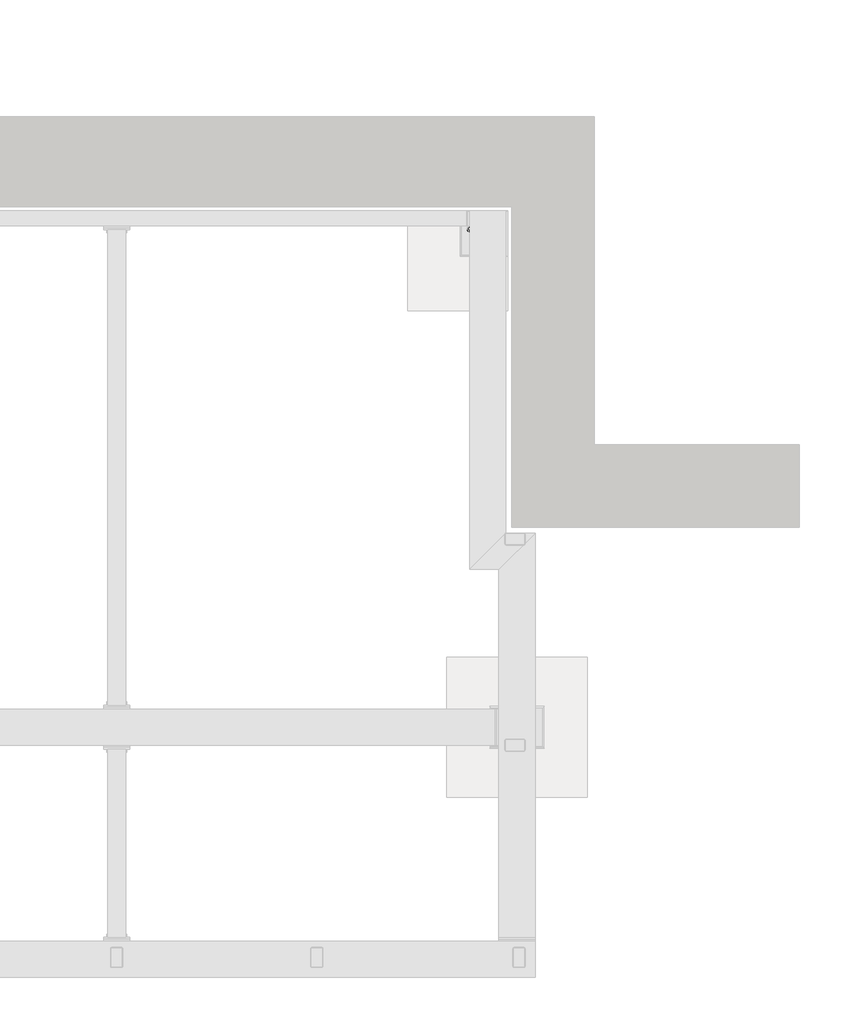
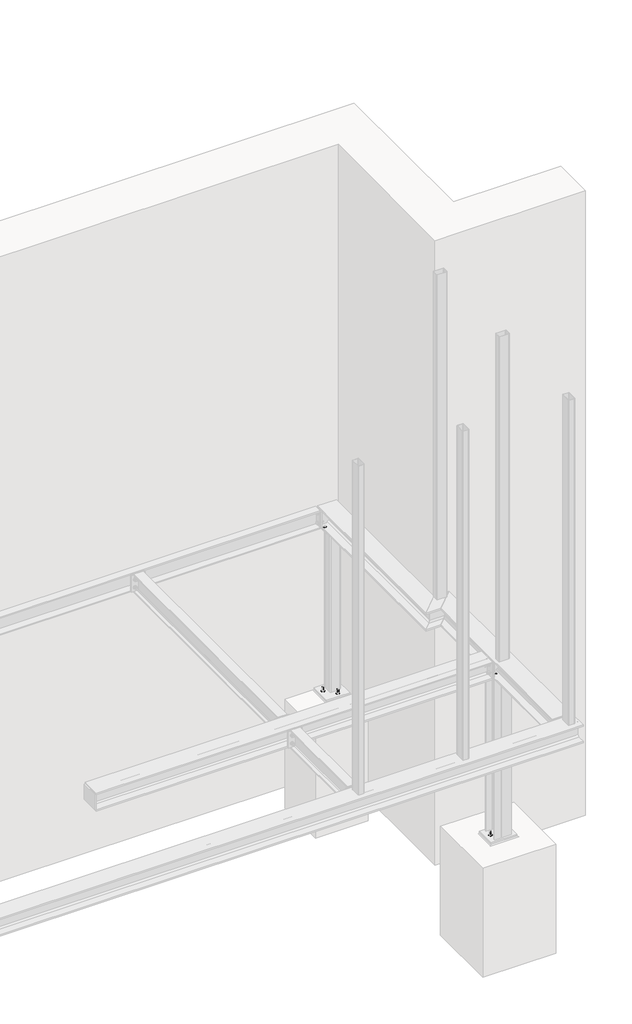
# One storey, part 30 of 31: 6 assemblies.
"""IFC4 building model written with IfcOpenShell, lengths in millimetres."""

from ifc_helpers import new_model, si_unit, point, frame, frame_2d, origin, place, context, project, spatial, polyline, circle_curve, trimmed, segment, composite_curve, outline, extrude, faceted_brep, element, save

model = new_model("IFC4")

# Units and contexts
model_context = context("Model", 3, world=origin())
ifc_project = project(units=[si_unit("LENGTHUNIT", "METRE", prefix="MILLI")], contexts=[model_context])

# Site, building, storey
site = spatial("IfcSite", under=ifc_project)
building = spatial("IfcBuilding", under=site)
storey = spatial("IfcBuildingStorey", under=building, Name="Základy", Elevation=-1200.0)

# Assemblies
placement = place(None, origin())
element("IfcElementAssembly", 1, at=placement, inside=storey, context=model_context, shape_type="SweptSolid", body=[
    extrude(outline(composite_curve([segment(polyline([(16090.0, 1193.6), (16090.0, 1146.4)]), True, "CONTINUOUS"), segment(trimmed(circle_curve(frame_2d((16083.6, 1146.4)), 6.4), [point((16090.0, 1146.4))], [point((16083.6, 1140.0))], False, "CARTESIAN"), True, "CONTINUOUS"), segment(polyline([(16083.6, 1140.0), (15996.4, 1140.0)]), True, "CONTINUOUS"), segment(trimmed(circle_curve(frame_2d((15996.4, 1146.4)), 6.4), [point((15996.4, 1140.0))], [point((15990.0, 1146.4))], False, "CARTESIAN"), True, "CONTINUOUS"), segment(polyline([(15990.0, 1146.4), (15990.0, 1193.6)]), True, "CONTINUOUS"), segment(trimmed(circle_curve(frame_2d((15996.4, 1193.6)), 6.4), [point((15990.0, 1193.6))], [point((15996.4, 1200.0))], False, "CARTESIAN"), True, "CONTINUOUS"), segment(polyline([(15996.4, 1200.0), (16083.6, 1200.0)]), True, "CONTINUOUS"), segment(trimmed(circle_curve(frame_2d((16083.6, 1193.6)), 6.4), [point((16083.6, 1200.0))], [point((16090.0, 1193.6))], False, "CARTESIAN"), True, "CONTINUOUS")], self_intersect=False), holes=[composite_curve([segment(trimmed(circle_curve(frame_2d((16083.6, 1193.6)), 3.2), [point((16086.8, 1193.6))], [point((16083.6, 1196.8))], True, "CARTESIAN"), True, "CONTINUOUS"), segment(polyline([(16083.6, 1196.8), (15996.4, 1196.8)]), True, "CONTINUOUS"), segment(trimmed(circle_curve(frame_2d((15996.4, 1193.6)), 3.2), [point((15996.4, 1196.8))], [point((15993.2, 1193.6))], True, "CARTESIAN"), True, "CONTINUOUS"), segment(polyline([(15993.2, 1193.6), (15993.2, 1146.4)]), True, "CONTINUOUS"), segment(trimmed(circle_curve(frame_2d((15996.4, 1146.4)), 3.2), [point((15993.2, 1146.4))], [point((15996.4, 1143.2))], True, "CARTESIAN"), True, "CONTINUOUS"), segment(polyline([(15996.4, 1143.2), (16083.6, 1143.2)]), True, "CONTINUOUS"), segment(trimmed(circle_curve(frame_2d((16083.6, 1146.4)), 3.2), [point((16083.6, 1143.2))], [point((16086.8, 1146.4))], True, "CARTESIAN"), True, "CONTINUOUS"), segment(polyline([(16086.8, 1146.4), (16086.8, 1193.6)]), True, "CONTINUOUS")], self_intersect=False)]), frame((0.0, 0.0, -160.0), z_axis=(0.0, 0.0, 1.0), x_axis=(1.0, 0.0, 0.0)), (0.0, 0.0, 1.0), 3280.0),
])
element("IfcElementAssembly", 2, at=placement, inside=storey, context=model_context, shape_type="SweptSolid", body=[
    extrude(outline(polyline([(16400.0, 1610.0), (16400.0, 910.0), (15700.0, 910.0), (15700.0, 1610.0), (16400.0, 1610.0)])), frame((0.0, 0.0, -3100.0), z_axis=(0.0, 0.0, 1.0), x_axis=(1.0, 0.0, 0.0)), (0.0, 0.0, 1.0), 1100.0),
])
element("IfcElementAssembly", 3, at=placement, inside=storey, context=model_context, shape_type="SweptSolid", body=[
    extrude(outline(composite_curve([segment(polyline([(16036.4, 160.0), (16083.6, 160.0)]), True, "CONTINUOUS"), segment(trimmed(circle_curve(frame_2d((16083.6, 153.6)), 6.4), [point((16083.6, 160.0))], [point((16090.0, 153.6))], False, "CARTESIAN"), True, "CONTINUOUS"), segment(polyline([(16090.0, 153.6), (16090.0, 66.4)]), True, "CONTINUOUS"), segment(trimmed(circle_curve(frame_2d((16083.6, 66.4)), 6.4), [point((16090.0, 66.4))], [point((16083.6, 60.0))], False, "CARTESIAN"), True, "CONTINUOUS"), segment(polyline([(16083.6, 60.0), (16036.4, 60.0)]), True, "CONTINUOUS"), segment(trimmed(circle_curve(frame_2d((16036.4, 66.4)), 6.4), [point((16036.4, 60.0))], [point((16030.0, 66.4))], False, "CARTESIAN"), True, "CONTINUOUS"), segment(polyline([(16030.0, 66.4), (16030.0, 153.6)]), True, "CONTINUOUS"), segment(trimmed(circle_curve(frame_2d((16036.4, 153.6)), 6.4), [point((16030.0, 153.6))], [point((16036.4, 160.0))], False, "CARTESIAN"), True, "CONTINUOUS")], self_intersect=False), holes=[composite_curve([segment(trimmed(circle_curve(frame_2d((16036.4, 153.6)), 3.2), [point((16036.4, 156.8))], [point((16033.2, 153.6))], True, "CARTESIAN"), True, "CONTINUOUS"), segment(polyline([(16033.2, 153.6), (16033.2, 66.4)]), True, "CONTINUOUS"), segment(trimmed(circle_curve(frame_2d((16036.4, 66.4)), 3.2), [point((16033.2, 66.4))], [point((16036.4, 63.2))], True, "CARTESIAN"), True, "CONTINUOUS"), segment(polyline([(16036.4, 63.2), (16083.6, 63.2)]), True, "CONTINUOUS"), segment(trimmed(circle_curve(frame_2d((16083.6, 66.4)), 3.2), [point((16083.6, 63.2))], [point((16086.8, 66.4))], True, "CARTESIAN"), True, "CONTINUOUS"), segment(polyline([(16086.8, 66.4), (16086.8, 153.6)]), True, "CONTINUOUS"), segment(trimmed(circle_curve(frame_2d((16083.6, 153.6)), 3.2), [point((16086.8, 153.6))], [point((16083.6, 156.8))], True, "CARTESIAN"), True, "CONTINUOUS"), segment(polyline([(16083.6, 156.8), (16036.4, 156.8)]), True, "CONTINUOUS")], self_intersect=False)]), frame((0.0, 0.0, -160.0), z_axis=(0.0, 0.0, 1.0), x_axis=(1.0, 0.0, 0.0)), (0.0, 0.0, 1.0), 3280.0),
])
element("IfcElementAssembly", 4, at=placement, inside=storey, context=model_context, shape_type="SweptSolid", body=[
    extrude(outline(composite_curve([segment(polyline([(16130.0, 1184.0), (15970.0, 1184.0), (15970.0, 1193.0), (16032.0, 1193.0)]), True, "CONTINUOUS"), segment(trimmed(circle_curve(frame_2d((16032.0, 1208.0)), 15.0), [point((16032.0, 1193.0))], [point((16047.0, 1208.0))], True, "CARTESIAN"), True, "CONTINUOUS"), segment(polyline([(16047.0, 1208.0), (16047.0, 1312.0)]), True, "CONTINUOUS"), segment(trimmed(circle_curve(frame_2d((16032.0, 1312.0)), 15.0), [point((16047.0, 1312.0))], [point((16032.0, 1327.0))], True, "CARTESIAN"), True, "CONTINUOUS"), segment(polyline([(16032.0, 1327.0), (15970.0, 1327.0), (15970.0, 1336.0), (16130.0, 1336.0), (16130.0, 1327.0), (16068.0, 1327.0)]), True, "CONTINUOUS"), segment(trimmed(circle_curve(frame_2d((16068.0, 1312.0)), 15.0), [point((16068.0, 1327.0))], [point((16053.0, 1312.0))], True, "CARTESIAN"), True, "CONTINUOUS"), segment(polyline([(16053.0, 1312.0), (16053.0, 1208.0)]), True, "CONTINUOUS"), segment(trimmed(circle_curve(frame_2d((16068.0, 1208.0)), 15.0), [point((16053.0, 1208.0))], [point((16068.0, 1193.0))], True, "CARTESIAN"), True, "CONTINUOUS"), segment(polyline([(16068.0, 1193.0), (16130.0, 1193.0), (16130.0, 1184.0)]), True, "CONTINUOUS")], self_intersect=False)), frame((0.0, 0.0, -1975.0), z_axis=(0.0, 0.0, 1.0), x_axis=(1.0, 0.0, 0.0)), (0.0, 0.0, 1.0), 1625.0),
    extrude(outline(polyline([(16175.0, 1356.0), (16175.0, 1164.0), (15925.0, 1164.0), (15925.0, 1356.0), (16175.0, 1356.0)])), frame((0.0, 0.0, -1990.0), z_axis=(0.0, 0.0, 1.0), x_axis=(1.0, 0.0, 0.0)), (0.0, 0.0, 1.0), 15.0),
    extrude(outline(polyline([(16140.0, 1346.0), (16140.0, 1174.0), (15960.0, 1174.0), (15960.0, 1346.0), (16140.0, 1346.0)])), frame((0.0, 0.0, -350.0), z_axis=(0.0, 0.0, 1.0), x_axis=(1.0, 0.0, 0.0)), (0.0, 0.0, 1.0), 10.0),
    extrude(outline(polyline([(15982.7364934, 1260.0), (15978.8682467, 1253.3000002), (15971.1317533, 1253.3000002), (15967.2635066, 1260.0), (15971.1317533, 1266.6999998), (15978.8682467, 1266.6999998), (15982.7364934, 1260.0)])), frame((0.0, 0.0, -2122.0), z_axis=(0.0, 0.0, 1.0), x_axis=(1.0, 0.0, 0.0)), (0.0, 0.0, 1.0), 132.0),
    extrude(outline(composite_curve([segment(trimmed(circle_curve(frame_2d((15975.0, 1260.0)), 8.0), [point((15983.0, 1260.0))], [point((15967.0, 1260.0))], False, "CARTESIAN"), True, "CONTINUOUS"), segment(trimmed(circle_curve(frame_2d((15975.0, 1260.0)), 8.0), [point((15967.0, 1260.0))], [point((15983.0, 1260.0))], False, "CARTESIAN"), True, "CONTINUOUS")], self_intersect=False)), frame((0.0, 0.0, -1990.0), z_axis=(0.0, 0.0, 1.0), x_axis=(1.0, 0.0, 0.0)), (0.0, 0.0, 1.0), 58.0),
    extrude(outline(composite_curve([segment(trimmed(circle_curve(frame_2d((15975.0, 1260.0)), 15.0), [point((15990.0, 1260.0))], [point((15960.0, 1260.0))], False, "CARTESIAN"), True, "CONTINUOUS"), segment(trimmed(circle_curve(frame_2d((15975.0, 1260.0)), 15.0), [point((15960.0, 1260.0))], [point((15990.0, 1260.0))], False, "CARTESIAN"), True, "CONTINUOUS")], self_intersect=False)), frame((0.0, 0.0, -1975.0), z_axis=(0.0, 0.0, 1.0), x_axis=(1.0, 0.0, 0.0)), (0.0, 0.0, 1.0), 3.0),
    extrude(outline(polyline([(15990.4441197, 1260.0), (15982.7220599, 1246.625), (15967.2779401, 1246.625), (15959.5558803, 1260.0), (15967.2779401, 1273.375), (15982.7220599, 1273.375), (15990.4441197, 1260.0)])), frame((0.0, 0.0, -1972.0), z_axis=(0.0, 0.0, 1.0), x_axis=(1.0, 0.0, 0.0)), (0.0, 0.0, 1.0), 13.0),
    extrude(outline(composite_curve([segment(trimmed(circle_curve(frame_2d((15975.0, 1260.0)), 9.0), [point((15984.0, 1260.0))], [point((15966.0, 1260.0))], False, "CARTESIAN"), True, "CONTINUOUS"), segment(trimmed(circle_curve(frame_2d((15975.0, 1260.0)), 9.0), [point((15966.0, 1260.0))], [point((15984.0, 1260.0))], False, "CARTESIAN"), True, "CONTINUOUS")], self_intersect=False)), frame((0.0, 0.0, -1990.0), z_axis=(0.0, 0.0, 1.0), x_axis=(1.0, 0.0, 0.0)), (0.0, 0.0, 1.0), 15.1),
    extrude(outline(polyline([(16132.7364934, 1260.0), (16128.8682467, 1253.3000002), (16121.1317533, 1253.3000002), (16117.2635066, 1260.0), (16121.1317533, 1266.6999998), (16128.8682467, 1266.6999998), (16132.7364934, 1260.0)])), frame((0.0, 0.0, -2122.0), z_axis=(0.0, 0.0, 1.0), x_axis=(1.0, 0.0, 0.0)), (0.0, 0.0, 1.0), 132.0),
    extrude(outline(composite_curve([segment(trimmed(circle_curve(frame_2d((16125.0, 1260.0)), 8.0), [point((16133.0, 1260.0))], [point((16117.0, 1260.0))], False, "CARTESIAN"), True, "CONTINUOUS"), segment(trimmed(circle_curve(frame_2d((16125.0, 1260.0)), 8.0), [point((16117.0, 1260.0))], [point((16133.0, 1260.0))], False, "CARTESIAN"), True, "CONTINUOUS")], self_intersect=False)), frame((0.0, 0.0, -1990.0), z_axis=(0.0, 0.0, 1.0), x_axis=(1.0, 0.0, 0.0)), (0.0, 0.0, 1.0), 58.0),
    extrude(outline(composite_curve([segment(trimmed(circle_curve(frame_2d((16125.0, 1260.0)), 15.0), [point((16140.0, 1260.0))], [point((16110.0, 1260.0))], False, "CARTESIAN"), True, "CONTINUOUS"), segment(trimmed(circle_curve(frame_2d((16125.0, 1260.0)), 15.0), [point((16110.0, 1260.0))], [point((16140.0, 1260.0))], False, "CARTESIAN"), True, "CONTINUOUS")], self_intersect=False)), frame((0.0, 0.0, -1975.0), z_axis=(0.0, 0.0, 1.0), x_axis=(1.0, 0.0, 0.0)), (0.0, 0.0, 1.0), 3.0),
    extrude(outline(polyline([(16140.4441197, 1260.0), (16132.7220599, 1246.625), (16117.2779401, 1246.625), (16109.5558803, 1260.0), (16117.2779401, 1273.375), (16132.7220599, 1273.375), (16140.4441197, 1260.0)])), frame((0.0, 0.0, -1972.0), z_axis=(0.0, 0.0, 1.0), x_axis=(1.0, 0.0, 0.0)), (0.0, 0.0, 1.0), 13.0),
    extrude(outline(composite_curve([segment(trimmed(circle_curve(frame_2d((16125.0, 1260.0)), 9.0), [point((16134.0, 1260.0))], [point((16116.0, 1260.0))], False, "CARTESIAN"), True, "CONTINUOUS"), segment(trimmed(circle_curve(frame_2d((16125.0, 1260.0)), 9.0), [point((16116.0, 1260.0))], [point((16134.0, 1260.0))], False, "CARTESIAN"), True, "CONTINUOUS")], self_intersect=False)), frame((0.0, 0.0, -1990.0), z_axis=(0.0, 0.0, 1.0), x_axis=(1.0, 0.0, 0.0)), (0.0, 0.0, 1.0), 15.1),
    extrude(outline(composite_curve([segment(trimmed(circle_curve(frame_2d((16000.0, 1220.0)), 6.5), [point((16006.5, 1220.0))], [point((15993.5, 1220.0))], False, "CARTESIAN"), True, "CONTINUOUS"), segment(trimmed(circle_curve(frame_2d((16000.0, 1220.0)), 6.5), [point((15993.5, 1220.0))], [point((16006.5, 1220.0))], False, "CARTESIAN"), True, "CONTINUOUS")], self_intersect=False)), frame((0.0, 0.0, -350.0), z_axis=(0.0, 0.0, 1.0), x_axis=(1.0, 0.0, 0.0)), (0.0, 0.0, 1.0), 10.1),
    extrude(outline(polyline([(16010.3923048, 1220.0), (16005.1961524, 1211.0), (15994.8038476, 1211.0), (15989.6076952, 1220.0), (15994.8038476, 1229.0), (16005.1961524, 1229.0), (16010.3923048, 1220.0)])), frame((0.0, 0.0, -323.5), z_axis=(0.0, 0.0, 1.0), x_axis=(1.0, 0.0, 0.0)), (0.0, 0.0, 1.0), 7.5),
    extrude(outline(composite_curve([segment(trimmed(circle_curve(frame_2d((16000.0, 1220.0)), 6.0), [point((16006.0, 1220.0))], [point((15994.0, 1220.0))], False, "CARTESIAN"), True, "CONTINUOUS"), segment(trimmed(circle_curve(frame_2d((16000.0, 1220.0)), 6.0), [point((15994.0, 1220.0))], [point((16006.0, 1220.0))], False, "CARTESIAN"), True, "CONTINUOUS")], self_intersect=False)), frame((0.0, 0.0, -368.5), z_axis=(0.0, 0.0, 1.0), x_axis=(1.0, 0.0, 0.0)), (0.0, 0.0, 1.0), 45.0),
    extrude(outline(composite_curve([segment(trimmed(circle_curve(frame_2d((16000.0, 1220.0)), 12.0), [point((16012.0, 1220.0))], [point((15988.0, 1220.0))], False, "CARTESIAN"), True, "CONTINUOUS"), segment(trimmed(circle_curve(frame_2d((16000.0, 1220.0)), 12.0), [point((15988.0, 1220.0))], [point((16012.0, 1220.0))], False, "CARTESIAN"), True, "CONTINUOUS")], self_intersect=False)), frame((0.0, 0.0, -326.0), z_axis=(0.0, 0.0, 1.0), x_axis=(1.0, 0.0, 0.0)), (0.0, 0.0, 1.0), 2.5),
    extrude(outline(composite_curve([segment(trimmed(circle_curve(frame_2d((16000.0, 1220.0)), 12.0), [point((16012.0, 1220.0))], [point((15988.0, 1220.0))], False, "CARTESIAN"), True, "CONTINUOUS"), segment(trimmed(circle_curve(frame_2d((16000.0, 1220.0)), 12.0), [point((15988.0, 1220.0))], [point((16012.0, 1220.0))], False, "CARTESIAN"), True, "CONTINUOUS")], self_intersect=False)), frame((0.0, 0.0, -352.5), z_axis=(0.0, 0.0, 1.0), x_axis=(1.0, 0.0, 0.0)), (0.0, 0.0, 1.0), 2.5),
    extrude(outline(polyline([(16010.9696551, 1220.0), (16005.4848276, 1210.5), (15994.5151724, 1210.5), (15989.0303449, 1220.0), (15994.5151724, 1229.5), (16005.4848276, 1229.5), (16010.9696551, 1220.0)])), frame((0.0, 0.0, -362.5), z_axis=(0.0, 0.0, 1.0), x_axis=(1.0, 0.0, 0.0)), (0.0, 0.0, 1.0), 10.0),
    extrude(outline(composite_curve([segment(trimmed(circle_curve(frame_2d((16000.0, 1220.0)), 6.5), [point((16006.5, 1220.0))], [point((15993.5, 1220.0))], False, "CARTESIAN"), True, "CONTINUOUS"), segment(trimmed(circle_curve(frame_2d((16000.0, 1220.0)), 6.5), [point((15993.5, 1220.0))], [point((16006.5, 1220.0))], False, "CARTESIAN"), True, "CONTINUOUS")], self_intersect=False)), frame((0.0, 0.0, -340.1), z_axis=(0.0, 0.0, 1.0), x_axis=(1.0, 0.0, 0.0)), (0.0, 0.0, 1.0), 14.0),
    extrude(outline(composite_curve([segment(trimmed(circle_curve(frame_2d((16100.0, 1220.0)), 6.5), [point((16106.5, 1220.0))], [point((16093.5, 1220.0))], False, "CARTESIAN"), True, "CONTINUOUS"), segment(trimmed(circle_curve(frame_2d((16100.0, 1220.0)), 6.5), [point((16093.5, 1220.0))], [point((16106.5, 1220.0))], False, "CARTESIAN"), True, "CONTINUOUS")], self_intersect=False)), frame((0.0, 0.0, -350.0), z_axis=(0.0, 0.0, 1.0), x_axis=(1.0, 0.0, 0.0)), (0.0, 0.0, 1.0), 10.1),
    extrude(outline(polyline([(16110.3923048, 1220.0), (16105.1961524, 1211.0), (16094.8038476, 1211.0), (16089.6076952, 1220.0), (16094.8038476, 1229.0), (16105.1961524, 1229.0), (16110.3923048, 1220.0)])), frame((0.0, 0.0, -323.5), z_axis=(0.0, 0.0, 1.0), x_axis=(1.0, 0.0, 0.0)), (0.0, 0.0, 1.0), 7.5),
    extrude(outline(composite_curve([segment(trimmed(circle_curve(frame_2d((16100.0, 1220.0)), 6.0), [point((16106.0, 1220.0))], [point((16094.0, 1220.0))], False, "CARTESIAN"), True, "CONTINUOUS"), segment(trimmed(circle_curve(frame_2d((16100.0, 1220.0)), 6.0), [point((16094.0, 1220.0))], [point((16106.0, 1220.0))], False, "CARTESIAN"), True, "CONTINUOUS")], self_intersect=False)), frame((0.0, 0.0, -368.5), z_axis=(0.0, 0.0, 1.0), x_axis=(1.0, 0.0, 0.0)), (0.0, 0.0, 1.0), 45.0),
    extrude(outline(composite_curve([segment(trimmed(circle_curve(frame_2d((16100.0, 1220.0)), 12.0), [point((16112.0, 1220.0))], [point((16088.0, 1220.0))], False, "CARTESIAN"), True, "CONTINUOUS"), segment(trimmed(circle_curve(frame_2d((16100.0, 1220.0)), 12.0), [point((16088.0, 1220.0))], [point((16112.0, 1220.0))], False, "CARTESIAN"), True, "CONTINUOUS")], self_intersect=False)), frame((0.0, 0.0, -326.0), z_axis=(0.0, 0.0, 1.0), x_axis=(1.0, 0.0, 0.0)), (0.0, 0.0, 1.0), 2.5),
    extrude(outline(composite_curve([segment(trimmed(circle_curve(frame_2d((16100.0, 1220.0)), 12.0), [point((16112.0, 1220.0))], [point((16088.0, 1220.0))], False, "CARTESIAN"), True, "CONTINUOUS"), segment(trimmed(circle_curve(frame_2d((16100.0, 1220.0)), 12.0), [point((16088.0, 1220.0))], [point((16112.0, 1220.0))], False, "CARTESIAN"), True, "CONTINUOUS")], self_intersect=False)), frame((0.0, 0.0, -352.5), z_axis=(0.0, 0.0, 1.0), x_axis=(1.0, 0.0, 0.0)), (0.0, 0.0, 1.0), 2.5),
    extrude(outline(polyline([(16110.9696551, 1220.0), (16105.4848276, 1210.5), (16094.5151724, 1210.5), (16089.0303449, 1220.0), (16094.5151724, 1229.5), (16105.4848276, 1229.5), (16110.9696551, 1220.0)])), frame((0.0, 0.0, -362.5), z_axis=(0.0, 0.0, 1.0), x_axis=(1.0, 0.0, 0.0)), (0.0, 0.0, 1.0), 10.0),
    extrude(outline(composite_curve([segment(trimmed(circle_curve(frame_2d((16100.0, 1220.0)), 6.5), [point((16106.5, 1220.0))], [point((16093.5, 1220.0))], False, "CARTESIAN"), True, "CONTINUOUS"), segment(trimmed(circle_curve(frame_2d((16100.0, 1220.0)), 6.5), [point((16093.5, 1220.0))], [point((16106.5, 1220.0))], False, "CARTESIAN"), True, "CONTINUOUS")], self_intersect=False)), frame((0.0, 0.0, -340.1), z_axis=(0.0, 0.0, 1.0), x_axis=(1.0, 0.0, 0.0)), (0.0, 0.0, 1.0), 14.0),
    extrude(outline(composite_curve([segment(trimmed(circle_curve(frame_2d((16000.0, 1300.0)), 6.5), [point((16006.5, 1300.0))], [point((15993.5, 1300.0))], False, "CARTESIAN"), True, "CONTINUOUS"), segment(trimmed(circle_curve(frame_2d((16000.0, 1300.0)), 6.5), [point((15993.5, 1300.0))], [point((16006.5, 1300.0))], False, "CARTESIAN"), True, "CONTINUOUS")], self_intersect=False)), frame((0.0, 0.0, -350.0), z_axis=(0.0, 0.0, 1.0), x_axis=(1.0, 0.0, 0.0)), (0.0, 0.0, 1.0), 10.1),
    extrude(outline(polyline([(16010.3923048, 1300.0), (16005.1961524, 1291.0), (15994.8038476, 1291.0), (15989.6076952, 1300.0), (15994.8038476, 1309.0), (16005.1961524, 1309.0), (16010.3923048, 1300.0)])), frame((0.0, 0.0, -323.5), z_axis=(0.0, 0.0, 1.0), x_axis=(1.0, 0.0, 0.0)), (0.0, 0.0, 1.0), 7.5),
    extrude(outline(composite_curve([segment(trimmed(circle_curve(frame_2d((16000.0, 1300.0)), 6.0), [point((16006.0, 1300.0))], [point((15994.0, 1300.0))], False, "CARTESIAN"), True, "CONTINUOUS"), segment(trimmed(circle_curve(frame_2d((16000.0, 1300.0)), 6.0), [point((15994.0, 1300.0))], [point((16006.0, 1300.0))], False, "CARTESIAN"), True, "CONTINUOUS")], self_intersect=False)), frame((0.0, 0.0, -368.5), z_axis=(0.0, 0.0, 1.0), x_axis=(1.0, 0.0, 0.0)), (0.0, 0.0, 1.0), 45.0),
    extrude(outline(composite_curve([segment(trimmed(circle_curve(frame_2d((16000.0, 1300.0)), 12.0), [point((16012.0, 1300.0))], [point((15988.0, 1300.0))], False, "CARTESIAN"), True, "CONTINUOUS"), segment(trimmed(circle_curve(frame_2d((16000.0, 1300.0)), 12.0), [point((15988.0, 1300.0))], [point((16012.0, 1300.0))], False, "CARTESIAN"), True, "CONTINUOUS")], self_intersect=False)), frame((0.0, 0.0, -326.0), z_axis=(0.0, 0.0, 1.0), x_axis=(1.0, 0.0, 0.0)), (0.0, 0.0, 1.0), 2.5),
    extrude(outline(composite_curve([segment(trimmed(circle_curve(frame_2d((16000.0, 1300.0)), 12.0), [point((16012.0, 1300.0))], [point((15988.0, 1300.0))], False, "CARTESIAN"), True, "CONTINUOUS"), segment(trimmed(circle_curve(frame_2d((16000.0, 1300.0)), 12.0), [point((15988.0, 1300.0))], [point((16012.0, 1300.0))], False, "CARTESIAN"), True, "CONTINUOUS")], self_intersect=False)), frame((0.0, 0.0, -352.5), z_axis=(0.0, 0.0, 1.0), x_axis=(1.0, 0.0, 0.0)), (0.0, 0.0, 1.0), 2.5),
    extrude(outline(polyline([(16010.9696551, 1300.0), (16005.4848276, 1290.5), (15994.5151724, 1290.5), (15989.0303449, 1300.0), (15994.5151724, 1309.5), (16005.4848276, 1309.5), (16010.9696551, 1300.0)])), frame((0.0, 0.0, -362.5), z_axis=(0.0, 0.0, 1.0), x_axis=(1.0, 0.0, 0.0)), (0.0, 0.0, 1.0), 10.0),
    extrude(outline(composite_curve([segment(trimmed(circle_curve(frame_2d((16000.0, 1300.0)), 6.5), [point((16006.5, 1300.0))], [point((15993.5, 1300.0))], False, "CARTESIAN"), True, "CONTINUOUS"), segment(trimmed(circle_curve(frame_2d((16000.0, 1300.0)), 6.5), [point((15993.5, 1300.0))], [point((16006.5, 1300.0))], False, "CARTESIAN"), True, "CONTINUOUS")], self_intersect=False)), frame((0.0, 0.0, -340.1), z_axis=(0.0, 0.0, 1.0), x_axis=(1.0, 0.0, 0.0)), (0.0, 0.0, 1.0), 14.0),
    extrude(outline(composite_curve([segment(trimmed(circle_curve(frame_2d((16100.0, 1300.0)), 6.5), [point((16106.5, 1300.0))], [point((16093.5, 1300.0))], False, "CARTESIAN"), True, "CONTINUOUS"), segment(trimmed(circle_curve(frame_2d((16100.0, 1300.0)), 6.5), [point((16093.5, 1300.0))], [point((16106.5, 1300.0))], False, "CARTESIAN"), True, "CONTINUOUS")], self_intersect=False)), frame((0.0, 0.0, -350.0), z_axis=(0.0, 0.0, 1.0), x_axis=(1.0, 0.0, 0.0)), (0.0, 0.0, 1.0), 10.1),
    extrude(outline(polyline([(16110.3923048, 1300.0), (16105.1961524, 1291.0), (16094.8038476, 1291.0), (16089.6076952, 1300.0), (16094.8038476, 1309.0), (16105.1961524, 1309.0), (16110.3923048, 1300.0)])), frame((0.0, 0.0, -323.5), z_axis=(0.0, 0.0, 1.0), x_axis=(1.0, 0.0, 0.0)), (0.0, 0.0, 1.0), 7.5),
    extrude(outline(composite_curve([segment(trimmed(circle_curve(frame_2d((16100.0, 1300.0)), 6.0), [point((16106.0, 1300.0))], [point((16094.0, 1300.0))], False, "CARTESIAN"), True, "CONTINUOUS"), segment(trimmed(circle_curve(frame_2d((16100.0, 1300.0)), 6.0), [point((16094.0, 1300.0))], [point((16106.0, 1300.0))], False, "CARTESIAN"), True, "CONTINUOUS")], self_intersect=False)), frame((0.0, 0.0, -368.5), z_axis=(0.0, 0.0, 1.0), x_axis=(1.0, 0.0, 0.0)), (0.0, 0.0, 1.0), 45.0),
    extrude(outline(composite_curve([segment(trimmed(circle_curve(frame_2d((16100.0, 1300.0)), 12.0), [point((16112.0, 1300.0))], [point((16088.0, 1300.0))], False, "CARTESIAN"), True, "CONTINUOUS"), segment(trimmed(circle_curve(frame_2d((16100.0, 1300.0)), 12.0), [point((16088.0, 1300.0))], [point((16112.0, 1300.0))], False, "CARTESIAN"), True, "CONTINUOUS")], self_intersect=False)), frame((0.0, 0.0, -326.0), z_axis=(0.0, 0.0, 1.0), x_axis=(1.0, 0.0, 0.0)), (0.0, 0.0, 1.0), 2.5),
    extrude(outline(composite_curve([segment(trimmed(circle_curve(frame_2d((16100.0, 1300.0)), 12.0), [point((16112.0, 1300.0))], [point((16088.0, 1300.0))], False, "CARTESIAN"), True, "CONTINUOUS"), segment(trimmed(circle_curve(frame_2d((16100.0, 1300.0)), 12.0), [point((16088.0, 1300.0))], [point((16112.0, 1300.0))], False, "CARTESIAN"), True, "CONTINUOUS")], self_intersect=False)), frame((0.0, 0.0, -352.5), z_axis=(0.0, 0.0, 1.0), x_axis=(1.0, 0.0, 0.0)), (0.0, 0.0, 1.0), 2.5),
    extrude(outline(polyline([(16110.9696551, 1300.0), (16105.4848276, 1290.5), (16094.5151724, 1290.5), (16089.0303449, 1300.0), (16094.5151724, 1309.5), (16105.4848276, 1309.5), (16110.9696551, 1300.0)])), frame((0.0, 0.0, -362.5), z_axis=(0.0, 0.0, 1.0), x_axis=(1.0, 0.0, 0.0)), (0.0, 0.0, 1.0), 10.0),
    extrude(outline(composite_curve([segment(trimmed(circle_curve(frame_2d((16100.0, 1300.0)), 6.5), [point((16106.5, 1300.0))], [point((16093.5, 1300.0))], False, "CARTESIAN"), True, "CONTINUOUS"), segment(trimmed(circle_curve(frame_2d((16100.0, 1300.0)), 6.5), [point((16093.5, 1300.0))], [point((16106.5, 1300.0))], False, "CARTESIAN"), True, "CONTINUOUS")], self_intersect=False)), frame((0.0, 0.0, -340.1), z_axis=(0.0, 0.0, 1.0), x_axis=(1.0, 0.0, 0.0)), (0.0, 0.0, 1.0), 14.0),
])
element("IfcElementAssembly", 5, at=placement, inside=storey, context=model_context, shape_type="SweptSolid", body=[
    extrude(outline(composite_curve([segment(polyline([(15945.0, 3700.0), (15865.0, 3700.0)]), True, "CONTINUOUS"), segment(trimmed(circle_curve(frame_2d((15865.0, 3710.0)), 10.0), [point((15865.0, 3700.0))], [point((15855.0, 3710.0))], False, "CARTESIAN"), True, "CONTINUOUS"), segment(polyline([(15855.0, 3710.0), (15855.0, 3790.0)]), True, "CONTINUOUS"), segment(trimmed(circle_curve(frame_2d((15865.0, 3790.0)), 10.0), [point((15855.0, 3790.0))], [point((15865.0, 3800.0))], False, "CARTESIAN"), True, "CONTINUOUS"), segment(polyline([(15865.0, 3800.0), (15945.0, 3800.0)]), True, "CONTINUOUS"), segment(trimmed(circle_curve(frame_2d((15945.0, 3790.0)), 10.0), [point((15945.0, 3800.0))], [point((15955.0, 3790.0))], False, "CARTESIAN"), True, "CONTINUOUS"), segment(polyline([(15955.0, 3790.0), (15955.0, 3710.0)]), True, "CONTINUOUS"), segment(trimmed(circle_curve(frame_2d((15945.0, 3710.0)), 10.0), [point((15955.0, 3710.0))], [point((15945.0, 3700.0))], False, "CARTESIAN"), True, "CONTINUOUS")], self_intersect=False), holes=[composite_curve([segment(trimmed(circle_curve(frame_2d((15945.0, 3710.0)), 5.0), [point((15945.0, 3705.0))], [point((15950.0, 3710.0))], True, "CARTESIAN"), True, "CONTINUOUS"), segment(polyline([(15950.0, 3710.0), (15950.0, 3790.0)]), True, "CONTINUOUS"), segment(trimmed(circle_curve(frame_2d((15945.0, 3790.0)), 5.0), [point((15950.0, 3790.0))], [point((15945.0, 3795.0))], True, "CARTESIAN"), True, "CONTINUOUS"), segment(polyline([(15945.0, 3795.0), (15865.0, 3795.0)]), True, "CONTINUOUS"), segment(trimmed(circle_curve(frame_2d((15865.0, 3790.0)), 5.0), [point((15865.0, 3795.0))], [point((15860.0, 3790.0))], True, "CARTESIAN"), True, "CONTINUOUS"), segment(polyline([(15860.0, 3790.0), (15860.0, 3710.0)]), True, "CONTINUOUS"), segment(trimmed(circle_curve(frame_2d((15865.0, 3710.0)), 5.0), [point((15860.0, 3710.0))], [point((15865.0, 3705.0))], True, "CARTESIAN"), True, "CONTINUOUS"), segment(polyline([(15865.0, 3705.0), (15945.0, 3705.0)]), True, "CONTINUOUS")], self_intersect=False)]), frame((0.0, 0.0, -1975.0), z_axis=(0.0, 0.0, 1.0), x_axis=(1.0, 0.0, 0.0)), (0.0, 0.0, 1.0), 1625.0),
    extrude(outline(polyline([(15995.0, 3810.0), (15995.0, 3690.0), (15815.0, 3690.0), (15815.0, 3810.0), (15995.0, 3810.0)])), frame((0.0, 0.0, -350.0), z_axis=(0.0, 0.0, 1.0), x_axis=(1.0, 0.0, 0.0)), (0.0, 0.0, 1.0), 10.0),
    extrude(outline(polyline([(15995.0, 3830.0), (15995.0, 3620.0), (15775.0, 3620.0), (15775.0, 3830.0), (15995.0, 3830.0)])), frame((0.0, 0.0, -1990.0), z_axis=(0.0, 0.0, 1.0), x_axis=(1.0, 0.0, 0.0)), (0.0, 0.0, 1.0), 15.0),
    extrude(outline(composite_curve([segment(trimmed(circle_curve(frame_2d((15835.0, 3750.0)), 6.5), [point((15841.5, 3750.0))], [point((15828.5, 3750.0))], False, "CARTESIAN"), True, "CONTINUOUS"), segment(trimmed(circle_curve(frame_2d((15835.0, 3750.0)), 6.5), [point((15828.5, 3750.0))], [point((15841.5, 3750.0))], False, "CARTESIAN"), True, "CONTINUOUS")], self_intersect=False)), frame((0.0, 0.0, -350.0), z_axis=(0.0, 0.0, 1.0), x_axis=(1.0, 0.0, 0.0)), (0.0, 0.0, 1.0), 10.1),
    extrude(outline(polyline([(15845.3923048, 3750.0), (15840.1961524, 3741.0), (15829.8038476, 3741.0), (15824.6076952, 3750.0), (15829.8038476, 3759.0), (15840.1961524, 3759.0), (15845.3923048, 3750.0)])), frame((0.0, 0.0, -323.5), z_axis=(0.0, 0.0, 1.0), x_axis=(1.0, 0.0, 0.0)), (0.0, 0.0, 1.0), 7.5),
    extrude(outline(composite_curve([segment(trimmed(circle_curve(frame_2d((15835.0, 3750.0)), 6.0), [point((15841.0, 3750.0))], [point((15829.0, 3750.0))], False, "CARTESIAN"), True, "CONTINUOUS"), segment(trimmed(circle_curve(frame_2d((15835.0, 3750.0)), 6.0), [point((15829.0, 3750.0))], [point((15841.0, 3750.0))], False, "CARTESIAN"), True, "CONTINUOUS")], self_intersect=False)), frame((0.0, 0.0, -368.5), z_axis=(0.0, 0.0, 1.0), x_axis=(1.0, 0.0, 0.0)), (0.0, 0.0, 1.0), 45.0),
    extrude(outline(composite_curve([segment(trimmed(circle_curve(frame_2d((15835.0, 3750.0)), 12.0), [point((15847.0, 3750.0))], [point((15823.0, 3750.0))], False, "CARTESIAN"), True, "CONTINUOUS"), segment(trimmed(circle_curve(frame_2d((15835.0, 3750.0)), 12.0), [point((15823.0, 3750.0))], [point((15847.0, 3750.0))], False, "CARTESIAN"), True, "CONTINUOUS")], self_intersect=False)), frame((0.0, 0.0, -326.0), z_axis=(0.0, 0.0, 1.0), x_axis=(1.0, 0.0, 0.0)), (0.0, 0.0, 1.0), 2.5),
    extrude(outline(composite_curve([segment(trimmed(circle_curve(frame_2d((15835.0, 3750.0)), 12.0), [point((15847.0, 3750.0))], [point((15823.0, 3750.0))], False, "CARTESIAN"), True, "CONTINUOUS"), segment(trimmed(circle_curve(frame_2d((15835.0, 3750.0)), 12.0), [point((15823.0, 3750.0))], [point((15847.0, 3750.0))], False, "CARTESIAN"), True, "CONTINUOUS")], self_intersect=False)), frame((0.0, 0.0, -352.5), z_axis=(0.0, 0.0, 1.0), x_axis=(1.0, 0.0, 0.0)), (0.0, 0.0, 1.0), 2.5),
    extrude(outline(polyline([(15845.9696551, 3750.0), (15840.4848276, 3740.5), (15829.5151724, 3740.5), (15824.0303449, 3750.0), (15829.5151724, 3759.5), (15840.4848276, 3759.5), (15845.9696551, 3750.0)])), frame((0.0, 0.0, -362.5), z_axis=(0.0, 0.0, 1.0), x_axis=(1.0, 0.0, 0.0)), (0.0, 0.0, 1.0), 10.0),
    extrude(outline(composite_curve([segment(trimmed(circle_curve(frame_2d((15835.0, 3750.0)), 6.5), [point((15841.5, 3750.0))], [point((15828.5, 3750.0))], False, "CARTESIAN"), True, "CONTINUOUS"), segment(trimmed(circle_curve(frame_2d((15835.0, 3750.0)), 6.5), [point((15828.5, 3750.0))], [point((15841.5, 3750.0))], False, "CARTESIAN"), True, "CONTINUOUS")], self_intersect=False)), frame((0.0, 0.0, -340.1), z_axis=(0.0, 0.0, 1.0), x_axis=(1.0, 0.0, 0.0)), (0.0, 0.0, 1.0), 14.0),
    extrude(outline(composite_curve([segment(trimmed(circle_curve(frame_2d((15975.0, 3750.0)), 6.5), [point((15981.5, 3750.0))], [point((15968.5, 3750.0))], False, "CARTESIAN"), True, "CONTINUOUS"), segment(trimmed(circle_curve(frame_2d((15975.0, 3750.0)), 6.5), [point((15968.5, 3750.0))], [point((15981.5, 3750.0))], False, "CARTESIAN"), True, "CONTINUOUS")], self_intersect=False)), frame((0.0, 0.0, -350.0), z_axis=(0.0, 0.0, 1.0), x_axis=(1.0, 0.0, 0.0)), (0.0, 0.0, 1.0), 10.1),
    extrude(outline(polyline([(15985.3923048, 3750.0), (15980.1961524, 3741.0), (15969.8038476, 3741.0), (15964.6076952, 3750.0), (15969.8038476, 3759.0), (15980.1961524, 3759.0), (15985.3923048, 3750.0)])), frame((0.0, 0.0, -323.5), z_axis=(0.0, 0.0, 1.0), x_axis=(1.0, 0.0, 0.0)), (0.0, 0.0, 1.0), 7.5),
    extrude(outline(composite_curve([segment(trimmed(circle_curve(frame_2d((15975.0, 3750.0)), 6.0), [point((15981.0, 3750.0))], [point((15969.0, 3750.0))], False, "CARTESIAN"), True, "CONTINUOUS"), segment(trimmed(circle_curve(frame_2d((15975.0, 3750.0)), 6.0), [point((15969.0, 3750.0))], [point((15981.0, 3750.0))], False, "CARTESIAN"), True, "CONTINUOUS")], self_intersect=False)), frame((0.0, 0.0, -368.5), z_axis=(0.0, 0.0, 1.0), x_axis=(1.0, 0.0, 0.0)), (0.0, 0.0, 1.0), 45.0),
    extrude(outline(composite_curve([segment(trimmed(circle_curve(frame_2d((15975.0, 3750.0)), 12.0), [point((15987.0, 3750.0))], [point((15963.0, 3750.0))], False, "CARTESIAN"), True, "CONTINUOUS"), segment(trimmed(circle_curve(frame_2d((15975.0, 3750.0)), 12.0), [point((15963.0, 3750.0))], [point((15987.0, 3750.0))], False, "CARTESIAN"), True, "CONTINUOUS")], self_intersect=False)), frame((0.0, 0.0, -326.0), z_axis=(0.0, 0.0, 1.0), x_axis=(1.0, 0.0, 0.0)), (0.0, 0.0, 1.0), 2.5),
    extrude(outline(composite_curve([segment(trimmed(circle_curve(frame_2d((15975.0, 3750.0)), 12.0), [point((15987.0, 3750.0))], [point((15963.0, 3750.0))], False, "CARTESIAN"), True, "CONTINUOUS"), segment(trimmed(circle_curve(frame_2d((15975.0, 3750.0)), 12.0), [point((15963.0, 3750.0))], [point((15987.0, 3750.0))], False, "CARTESIAN"), True, "CONTINUOUS")], self_intersect=False)), frame((0.0, 0.0, -352.5), z_axis=(0.0, 0.0, 1.0), x_axis=(1.0, 0.0, 0.0)), (0.0, 0.0, 1.0), 2.5),
    extrude(outline(polyline([(15985.9696551, 3750.0), (15980.4848276, 3740.5), (15969.5151724, 3740.5), (15964.0303449, 3750.0), (15969.5151724, 3759.5), (15980.4848276, 3759.5), (15985.9696551, 3750.0)])), frame((0.0, 0.0, -362.5), z_axis=(0.0, 0.0, 1.0), x_axis=(1.0, 0.0, 0.0)), (0.0, 0.0, 1.0), 10.0),
    extrude(outline(composite_curve([segment(trimmed(circle_curve(frame_2d((15975.0, 3750.0)), 6.5), [point((15981.5, 3750.0))], [point((15968.5, 3750.0))], False, "CARTESIAN"), True, "CONTINUOUS"), segment(trimmed(circle_curve(frame_2d((15975.0, 3750.0)), 6.5), [point((15968.5, 3750.0))], [point((15981.5, 3750.0))], False, "CARTESIAN"), True, "CONTINUOUS")], self_intersect=False)), frame((0.0, 0.0, -340.1), z_axis=(0.0, 0.0, 1.0), x_axis=(1.0, 0.0, 0.0)), (0.0, 0.0, 1.0), 14.0),
    extrude(outline(polyline([(15822.7364934, 3750.0), (15818.8682467, 3743.3000002), (15811.1317533, 3743.3000002), (15807.2635066, 3750.0), (15811.1317533, 3756.6999998), (15818.8682467, 3756.6999998), (15822.7364934, 3750.0)])), frame((0.0, 0.0, -2122.0), z_axis=(0.0, 0.0, 1.0), x_axis=(1.0, 0.0, 0.0)), (0.0, 0.0, 1.0), 132.0),
    extrude(outline(composite_curve([segment(trimmed(circle_curve(frame_2d((15815.0, 3750.0)), 8.0), [point((15823.0, 3750.0))], [point((15807.0, 3750.0))], False, "CARTESIAN"), True, "CONTINUOUS"), segment(trimmed(circle_curve(frame_2d((15815.0, 3750.0)), 8.0), [point((15807.0, 3750.0))], [point((15823.0, 3750.0))], False, "CARTESIAN"), True, "CONTINUOUS")], self_intersect=False)), frame((0.0, 0.0, -1990.0), z_axis=(0.0, 0.0, 1.0), x_axis=(1.0, 0.0, 0.0)), (0.0, 0.0, 1.0), 58.0),
    extrude(outline(composite_curve([segment(trimmed(circle_curve(frame_2d((15815.0, 3750.0)), 15.0), [point((15830.0, 3750.0))], [point((15800.0, 3750.0))], False, "CARTESIAN"), True, "CONTINUOUS"), segment(trimmed(circle_curve(frame_2d((15815.0, 3750.0)), 15.0), [point((15800.0, 3750.0))], [point((15830.0, 3750.0))], False, "CARTESIAN"), True, "CONTINUOUS")], self_intersect=False)), frame((0.0, 0.0, -1975.0), z_axis=(0.0, 0.0, 1.0), x_axis=(1.0, 0.0, 0.0)), (0.0, 0.0, 1.0), 3.0),
    extrude(outline(polyline([(15830.4441197, 3750.0), (15822.7220599, 3736.625), (15807.2779401, 3736.625), (15799.5558803, 3750.0), (15807.2779401, 3763.375), (15822.7220599, 3763.375), (15830.4441197, 3750.0)])), frame((0.0, 0.0, -1972.0), z_axis=(0.0, 0.0, 1.0), x_axis=(1.0, 0.0, 0.0)), (0.0, 0.0, 1.0), 13.0),
    extrude(outline(composite_curve([segment(trimmed(circle_curve(frame_2d((15815.0, 3750.0)), 9.0), [point((15824.0, 3750.0))], [point((15806.0, 3750.0))], False, "CARTESIAN"), True, "CONTINUOUS"), segment(trimmed(circle_curve(frame_2d((15815.0, 3750.0)), 9.0), [point((15806.0, 3750.0))], [point((15824.0, 3750.0))], False, "CARTESIAN"), True, "CONTINUOUS")], self_intersect=False)), frame((0.0, 0.0, -1990.0), z_axis=(0.0, 0.0, 1.0), x_axis=(1.0, 0.0, 0.0)), (0.0, 0.0, 1.0), 15.1),
    extrude(outline(polyline([(15912.7364934, 3660.0), (15908.8682467, 3653.3000002), (15901.1317533, 3653.3000002), (15897.2635066, 3660.0), (15901.1317533, 3666.6999998), (15908.8682467, 3666.6999998), (15912.7364934, 3660.0)])), frame((0.0, 0.0, -2122.0), z_axis=(0.0, 0.0, 1.0), x_axis=(1.0, 0.0, 0.0)), (0.0, 0.0, 1.0), 132.0),
    extrude(outline(composite_curve([segment(trimmed(circle_curve(frame_2d((15905.0, 3660.0)), 8.0), [point((15913.0, 3660.0))], [point((15897.0, 3660.0))], False, "CARTESIAN"), True, "CONTINUOUS"), segment(trimmed(circle_curve(frame_2d((15905.0, 3660.0)), 8.0), [point((15897.0, 3660.0))], [point((15913.0, 3660.0))], False, "CARTESIAN"), True, "CONTINUOUS")], self_intersect=False)), frame((0.0, 0.0, -1990.0), z_axis=(0.0, 0.0, 1.0), x_axis=(1.0, 0.0, 0.0)), (0.0, 0.0, 1.0), 58.0),
    extrude(outline(composite_curve([segment(trimmed(circle_curve(frame_2d((15905.0, 3660.0)), 15.0), [point((15920.0, 3660.0))], [point((15890.0, 3660.0))], False, "CARTESIAN"), True, "CONTINUOUS"), segment(trimmed(circle_curve(frame_2d((15905.0, 3660.0)), 15.0), [point((15890.0, 3660.0))], [point((15920.0, 3660.0))], False, "CARTESIAN"), True, "CONTINUOUS")], self_intersect=False)), frame((0.0, 0.0, -1975.0), z_axis=(0.0, 0.0, 1.0), x_axis=(1.0, 0.0, 0.0)), (0.0, 0.0, 1.0), 3.0),
    extrude(outline(polyline([(15920.4441197, 3660.0), (15912.7220599, 3646.625), (15897.2779401, 3646.625), (15889.5558803, 3660.0), (15897.2779401, 3673.375), (15912.7220599, 3673.375), (15920.4441197, 3660.0)])), frame((0.0, 0.0, -1972.0), z_axis=(0.0, 0.0, 1.0), x_axis=(1.0, 0.0, 0.0)), (0.0, 0.0, 1.0), 13.0),
    extrude(outline(composite_curve([segment(trimmed(circle_curve(frame_2d((15905.0, 3660.0)), 9.0), [point((15914.0, 3660.0))], [point((15896.0, 3660.0))], False, "CARTESIAN"), True, "CONTINUOUS"), segment(trimmed(circle_curve(frame_2d((15905.0, 3660.0)), 9.0), [point((15896.0, 3660.0))], [point((15914.0, 3660.0))], False, "CARTESIAN"), True, "CONTINUOUS")], self_intersect=False)), frame((0.0, 0.0, -1990.0), z_axis=(0.0, 0.0, 1.0), x_axis=(1.0, 0.0, 0.0)), (0.0, 0.0, 1.0), 15.1),
])
element("IfcElementAssembly", 6, at=placement, inside=storey, context=model_context, shape_type="Brep", body=[
    faceted_brep([(15775.0, 3830.0, -1990.0), (15775.0, 3620.0, -1990.0), (15995.0, 3620.0, -1990.0), (15995.0, 3830.0, -1990.0), (16005.0, 3610.0, -2000.0), (15765.0, 3610.0, -2000.0), (15765.0, 3840.0, -2000.0), (16005.0, 3840.0, -2000.0)], [[[0, 1, 2, 3]], [[4, 5, 6, 7]], [[5, 4, 2, 1]], [[1, 0, 6, 5]], [[7, 6, 0, 3]], [[3, 2, 4, 7]]]),
])

save(model, "model.ifc")
